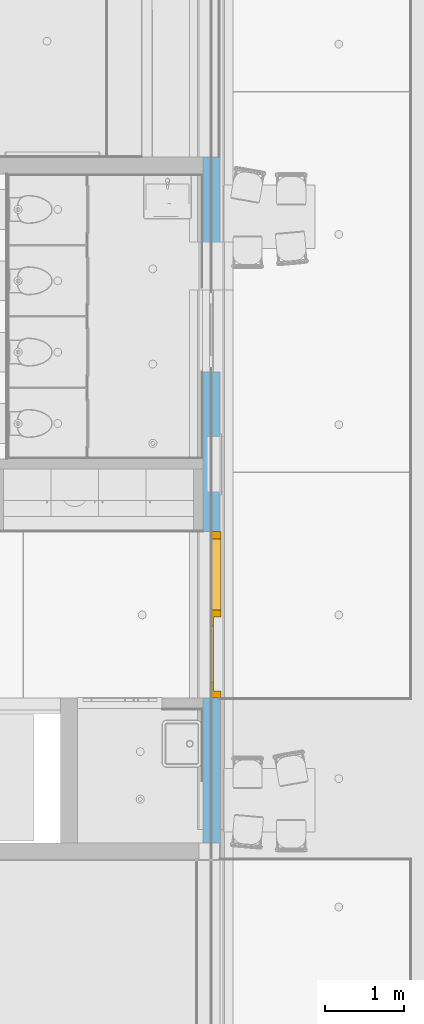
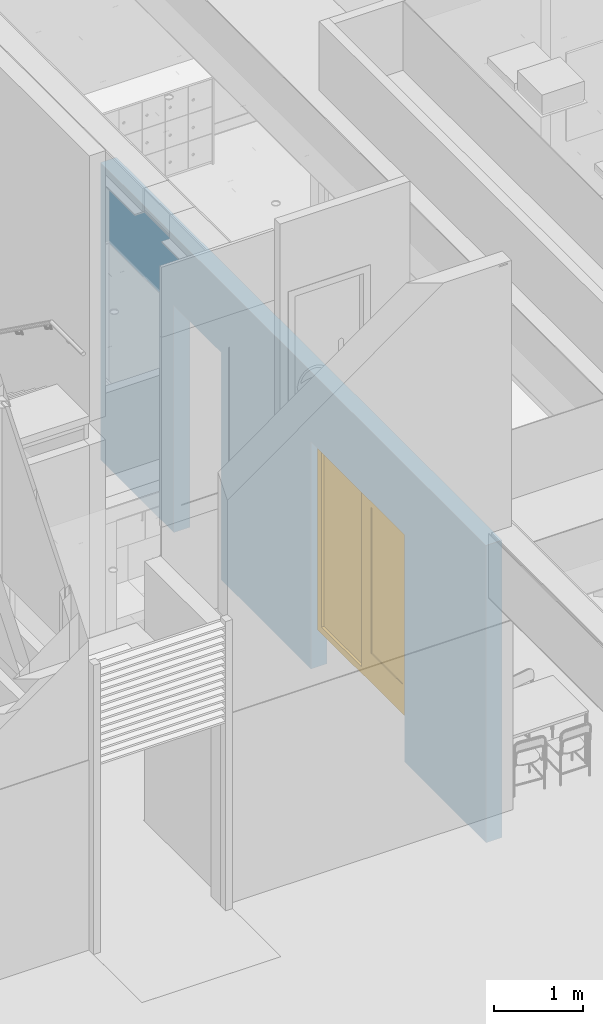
# One storey, part 77 of 347: 1 door, 2 openings, plus 1 element that does not belong to this part.
"""IFC2X3 building model written with IfcOpenShell, lengths in millimetres."""

from ifc_helpers import new_model, entity, si_unit, converted_unit, derived_unit, money_unit, direction, frame, origin_with_axes, place, context, subcontext, project, spatial, open_shell, faceted_brep, surface_model, material, type_object, element, fill, save


model = new_model("IFC2X3")

# Units and contexts
model_context = context("Model", 3, precision=0.01, world=origin_with_axes(), true_north=direction((0.0, 1.0)))
plan_context = context("Plan", 3, precision=0.01, world=origin_with_axes(), true_north=direction((0.0, 1.0)))
body_context = subcontext(model_context, "Body", "Model", "MODEL_VIEW")
ifc_project = project(units=[si_unit("LENGTHUNIT", "METRE", prefix="MILLI"), si_unit("AREAUNIT", "SQUARE_METRE"), si_unit("VOLUMEUNIT", "CUBIC_METRE"), converted_unit("PLANEANGLEUNIT", "DEGREE", entity("IfcPlaneAngleMeasure", 0.0174532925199), si_unit("PLANEANGLEUNIT", "RADIAN"), dimensions=[0, 0, 0, 0, 0, 0, 0]), money_unit("EUR"), converted_unit("TIMEUNIT", "Year", entity("IfcTimeMeasure", 31556926.0), si_unit("TIMEUNIT", "SECOND"), dimensions=[0, 0, 1, 0, 0, 0, 0]), si_unit("MASSUNIT", "GRAM", prefix="KILO"), si_unit("THERMODYNAMICTEMPERATUREUNIT", "DEGREE_CELSIUS"), si_unit("LUMINOUSINTENSITYUNIT", "LUMEN"), si_unit("ENERGYUNIT", "JOULE", prefix="MEGA"), derived_unit("THERMALCONDUCTANCEUNIT", [(si_unit("POWERUNIT", "WATT"), 1), (si_unit("LENGTHUNIT", "METRE"), -1), (si_unit("THERMODYNAMICTEMPERATUREUNIT", "KELVIN"), -1)]), derived_unit("SPECIFICHEATCAPACITYUNIT", [(si_unit("ENERGYUNIT", "JOULE"), 1), (si_unit("MASSUNIT", "GRAM", prefix="KILO"), -1), (si_unit("THERMODYNAMICTEMPERATUREUNIT", "KELVIN"), -1)]), derived_unit("MASSDENSITYUNIT", [(si_unit("MASSUNIT", "GRAM", prefix="KILO"), 1), (si_unit("VOLUMEUNIT", "CUBIC_METRE"), -1)])], contexts=[model_context, plan_context])

# Site, building, storey
site_placement = place(None, origin_with_axes())
site = spatial("IfcSite", under=ifc_project, at=site_placement, Name="Site", CompositionType="ELEMENT")
building_placement = place(site_placement, origin_with_axes())
building = spatial("IfcBuilding", under=site, at=building_placement, Name="Naam gebouw", CompositionType="ELEMENT")
storey_placement = place(building_placement, origin_with_axes())
storey = spatial("IfcBuildingStorey", under=building, at=storey_placement, Name="begane grond", CompositionType="ELEMENT", Elevation=0.0)

# Wall, openings, door
ifc_material = material(Name="Beton gewapend prefab wand")
wall_type = type_object("IfcWallType", Name="Betonwand 200 210", PredefinedType="NOTDEFINED")
wall_placement = place(storey_placement, frame((44445.0, 25940.0, -510.0), z_axis=(0.0, 0.0, 1.0), x_axis=(0.0, 1.0, 0.0)))
wall = element("IfcWall", 1, at=wall_placement, inside=storey, type_object=wall_type, material=ifc_material, Name="21_21 betonwand", context=body_context, shape_type="Brep", body=[
    faceted_brep([(2034.9998617, -210.0, 440.0), (2034.9998617, -210.0, 3110.0), (4134.99978935, -210.0, 3110.0), (4134.99978935, -210.0, 440.0), (4134.99992765, -210.0, 0.0), (6149.99992765, -210.0, 0.0), (6149.99992765, -210.0, 440.0), (6149.99992765, -210.0, 3110.0), (7213.99992765, -210.0, 3110.0), (7213.99992765, -210.0, 440.0), (7213.99992765, -210.0, 0.0), (8860.0, -210.0, 0.0), (8860.0, -210.0, 4070.0), (210.0, -210.0, 4070.0), (210.0, -210.0, 0.0), (2035.0, -210.0, 0.0), (2034.9998617, 0.0, 440.0), (2034.9998617, 0.0, 3110.0), (4134.99978935, 0.0, 3110.0), (4134.99978935, 0.0, 440.0), (4134.99992765, 0.0, 0.0), (6149.99992765, 0.0, 0.0), (6149.99992765, 0.0, 440.0), (6149.99992765, -130.0, 440.0), (6149.99992765, 0.0, 3110.0), (7213.99992765, 0.0, 3110.0), (7213.99992765, 0.0, 440.0), (7213.99992765, -130.0, 440.0), (7213.99992765, 0.0, 0.0), (8860.0, 0.0, 0.0), (8860.0, 0.0, 4070.0), (210.0, 0.0, 4070.0), (210.0, 0.0, 0.0), (2035.0, 0.0, 0.0)], [[[0, 1, 2, 3, 4, 5, 6, 7, 8, 9, 10, 11, 12, 13, 14, 15]], [[1, 0, 16, 17]], [[2, 1, 17, 18]], [[3, 2, 18, 19]], [[3, 19, 20, 4]], [[4, 20, 21, 5]], [[6, 5, 21, 22, 23]], [[24, 7, 6, 23, 22]], [[24, 25, 8, 7]], [[26, 27, 9, 8, 25]], [[28, 10, 9, 27, 26]], [[29, 11, 10, 28]], [[11, 29, 30, 12]], [[31, 13, 12, 30]], [[31, 32, 14, 13]], [[14, 32, 33, 15]], [[16, 0, 15, 33]], [[17, 16, 33, 32, 31, 30, 29, 28, 26, 25, 24, 22, 21, 20, 19, 18]]]),
])
opening_1_placement = place(wall_placement, frame((6681.99992765, 0.0, 510.0), z_axis=(0.0, 0.0, 1.0), x_axis=(1.0, 0.0, 0.0)))
element("IfcOpeningElement", 2, at=opening_1_placement, cuts=wall, Name="32_02.04", context=body_context, shape_type="Brep", body=[
    faceted_brep([(-532.0, 210.0, 2600.0), (-532.0, 210.0, -450.0), (-532.0, -130.0, -450.0), (-532.0, -130.0, 2600.0), (532.0, 210.0, 2600.0), (532.0, 210.0, -450.0), (532.0, -130.0, -450.0), (532.0, -130.0, 2600.0)], [[[0, 1, 2, 3]], [[0, 4, 5, 1]], [[1, 5, 6, 2]], [[3, 2, 6, 7]], [[4, 0, 3, 7]], [[5, 4, 7, 6]]]),
    faceted_brep([(-532.0, -420.0, -450.0), (-532.0, -420.0, 2600.0), (-532.0, -130.0, 2600.0), (-532.0, -130.0, -450.0), (532.0, -420.0, -450.0), (532.0, -420.0, 2600.0), (532.0, -130.0, 2600.0), (532.0, -130.0, -450.0)], [[[0, 1, 2, 3]], [[0, 4, 5, 1]], [[1, 5, 6, 2]], [[3, 2, 6, 7]], [[4, 0, 3, 7]], [[5, 4, 7, 6]]]),
])
opening_2_placement = place(wall_placement, frame((3084.99982553, 0.0, 510.0), z_axis=(0.0, 0.0, 1.0), x_axis=(1.0, 0.0, 0.0)))
opening_2 = element("IfcOpeningElement", 3, at=opening_2_placement, cuts=wall, Name="32_03.03", context=body_context, shape_type="Brep", body=[
    faceted_brep([(-1049.99996383, -432.0, -450.0), (-1049.99996383, -432.0, 2600.0), (-1049.99996383, 210.0, 2600.0), (-1049.99996383, 210.0, -450.0), (1049.99996383, -432.0, -450.0), (1049.99996383, -432.0, 2600.0), (1049.99996383, 210.0, 2600.0), (1049.99996383, 210.0, -450.0)], [[[0, 1, 2, 3]], [[0, 4, 5, 1]], [[1, 5, 6, 2]], [[3, 2, 6, 7]], [[4, 0, 3, 7]], [[5, 4, 7, 6]]]),
])
door_style = type_object("IfcDoorStyle", Name="D1 zl1-b 25", ConstructionType="NOTDEFINED", OperationType="SINGLE_SWING_LEFT", ParameterTakesPrecedence=False, Sizeable=False)
door_placement = place(opening_2_placement, frame((-1049.99996383, 0.0, 0.0), z_axis=(0.0, 0.0, 1.0), x_axis=(1.0, 0.0, 0.0)))
door = element("IfcDoor", 4, at=door_placement, inside=storey, type_object=door_style, Name="32_03.03", ObjectType="DOOR", OverallHeight=2600.0, OverallWidth=2100.0, context=body_context, shape_type="SurfaceModel", body=[
    faceted_brep([(2099.99992765, -83.0, 0.0), (2099.99992765, -222.0, 0.0), (2009.99992765, -222.0, 0.0), (2009.99992765, -83.0, 0.0), (2099.99992765, -83.0, 2510.0), (2099.99992765, -222.0, 2510.0), (2009.99992765, -222.0, 2510.0), (2009.99992765, -222.0, 90.0), (2009.99992765, -83.0, 90.0), (2009.99992765, -83.0, 2510.0)], [[[0, 1, 2, 3]], [[4, 5, 1, 0]], [[1, 5, 6, 7, 2]], [[3, 2, 7, 8]], [[0, 3, 8, 9, 4]], [[9, 6, 5, 4]], [[8, 7, 6, 9]]]),
    faceted_brep([(1024.0, -128.0, 0.0), (1024.0, -222.0, 0.0), (1024.0, -222.0, 2510.0), (1024.0, -128.0, 2510.0), (1049.0, -128.0, 0.0), (1049.0, -83.0, 0.0), (1114.0, -83.0, 0.0), (1114.0, -222.0, 0.0), (1114.0, -222.0, 90.0), (1114.0, -222.0, 2510.0), (1049.0, -128.0, 2510.0), (1114.0, -83.0, 2510.0), (1049.0, -83.0, 2510.0), (1114.0, -83.0, 90.0)], [[[0, 1, 2, 3]], [[4, 5, 6, 7, 1, 0]], [[7, 8, 9, 2, 1]], [[10, 3, 2, 9, 11, 12]], [[10, 4, 0, 3]], [[12, 5, 4, 10]], [[12, 11, 13, 6, 5]], [[6, 13, 8, 7]], [[13, 11, 9, 8]]]),
    faceted_brep([(2009.99992765, -83.0, 90.0), (2009.99992765, -222.0, 90.0), (2009.99992765, -222.0, 0.0), (2009.99992765, -83.0, 0.0), (1114.0, -83.0, 90.0), (1114.0, -222.0, 90.0), (1114.0, -222.0, 0.0), (1114.0, -83.0, 0.0)], [[[0, 1, 2, 3]], [[4, 5, 1, 0]], [[1, 5, 6, 2]], [[3, 2, 6, 7]], [[0, 3, 7, 4]], [[7, 6, 5, 4]]]),
    faceted_brep([(65.0, -128.0, 2510.0), (65.0, -83.0, 2510.0), (0.0, -83.0, 2510.0), (0.0, -222.0, 2510.0), (90.0, -222.0, 2510.0), (90.0, -128.0, 2510.0), (65.0, -128.0, 0.0), (65.0, -83.0, 0.0), (0.0, -83.0, 0.0), (0.0, -222.0, 0.0), (90.0, -222.0, 0.0), (90.0, -128.0, 0.0)], [[[0, 1, 2, 3, 4, 5]], [[0, 6, 7, 1]], [[7, 8, 2, 1]], [[2, 8, 9, 3]], [[3, 9, 10, 4]], [[5, 4, 10, 11]], [[5, 11, 6, 0]], [[6, 11, 10, 9, 8, 7]]]),
    faceted_brep([(1049.0, -83.0, 2535.0), (65.0, -83.0, 2535.0), (65.0, -83.0, 2510.0), (0.0, -83.0, 2510.0), (0.0, -83.0, 2600.0), (2099.99992765, -83.0, 2600.0), (2099.99992765, -83.0, 2510.0), (2009.99992765, -83.0, 2510.0), (1114.0, -83.0, 2510.0), (1049.0, -83.0, 2510.0), (1049.0, -128.0, 2535.0), (65.0, -128.0, 2535.0), (65.0, -128.0, 2510.0), (90.0, -128.0, 2510.0), (90.0, -222.0, 2510.0), (0.0, -222.0, 2510.0), (0.0, -222.0, 2600.0), (2099.99992765, -222.0, 2600.0), (2099.99992765, -222.0, 2510.0), (2009.99992765, -222.0, 2510.0), (1114.0, -222.0, 2510.0), (1049.0, -128.0, 2510.0), (1024.0, -222.0, 2510.0)], [[[0, 1, 2, 3, 4, 5, 6, 7, 8, 9]], [[0, 10, 11, 1]], [[1, 11, 12, 2]], [[12, 13, 14, 15, 3, 2]], [[4, 3, 15, 16]], [[5, 4, 16, 17]], [[6, 5, 17, 18]], [[7, 6, 18, 19]], [[8, 7, 19, 20]], [[21, 9, 8, 20, 22, 14, 13]], [[9, 21, 10, 0]], [[12, 11, 10, 21, 13]], [[14, 22, 20, 19, 18, 17, 16, 15]]]),
    faceted_brep([(65.0, -88.0, 400.0), (205.0, -88.0, 400.0), (205.0, -128.0, 400.0), (65.0, -128.0, 400.0), (65.0, -88.0, 2395.0), (205.0, -88.0, 2395.0), (205.0, -128.0, 2395.0), (65.0, -128.0, 2395.0)], [[[0, 1, 2, 3]], [[0, 4, 5, 1]], [[1, 5, 6, 2]], [[3, 2, 6, 7]], [[4, 0, 3, 7]], [[5, 4, 7, 6]]]),
    faceted_brep([(1049.0, -88.0, 400.0), (1049.0, -88.0, 2395.0), (1049.0, -128.0, 2395.0), (1049.0, -128.0, 400.0), (909.0, -88.0, 400.0), (909.0, -88.0, 2395.0), (909.0, -128.0, 2395.0), (909.0, -128.0, 400.0)], [[[0, 1, 2, 3]], [[0, 4, 5, 1]], [[1, 5, 6, 2]], [[3, 2, 6, 7]], [[4, 0, 3, 7]], [[5, 4, 7, 6]]]),
    faceted_brep([(65.0, -88.0, 0.0), (1049.0, -88.0, 0.0), (1049.0, -128.0, 0.0), (65.0, -128.0, 0.0), (65.0, -88.0, 400.0), (205.0, -88.0, 400.0), (909.0, -88.0, 400.0), (1049.0, -88.0, 400.0), (1049.0, -128.0, 400.0), (909.0, -128.0, 400.0), (205.0, -128.0, 400.0), (65.0, -128.0, 400.0)], [[[0, 1, 2, 3]], [[0, 4, 5, 6, 7, 1]], [[1, 7, 8, 2]], [[3, 2, 8, 9, 10, 11]], [[4, 0, 3, 11]], [[5, 4, 11, 10]], [[6, 5, 10, 9]], [[7, 6, 9, 8]]]),
    faceted_brep([(65.0, -88.0, 2535.0), (65.0, -88.0, 2395.0), (65.0, -128.0, 2395.0), (65.0, -128.0, 2535.0), (1049.0, -88.0, 2535.0), (1049.0, -88.0, 2395.0), (909.0, -88.0, 2395.0), (205.0, -88.0, 2395.0), (205.0, -128.0, 2395.0), (909.0, -128.0, 2395.0), (1049.0, -128.0, 2395.0), (1049.0, -128.0, 2535.0)], [[[0, 1, 2, 3]], [[0, 4, 5, 6, 7, 1]], [[1, 7, 8, 2]], [[3, 2, 8, 9, 10, 11]], [[4, 0, 3, 11]], [[5, 4, 11, 10]], [[6, 5, 10, 9]], [[7, 6, 9, 8]]]),
    surface_model("IfcShellBasedSurfaceModel", [(205.0, -102.0, 400.0), (205.0, -102.0, 2395.0), (909.0, -102.0, 2395.0), (909.0, -102.0, 400.0)], [open_shell([[[0, 1, 2, 3]]])]),
    surface_model("IfcShellBasedSurfaceModel", [(205.0, -114.0, 400.0), (909.0, -114.0, 400.0), (909.0, -114.0, 2395.0), (205.0, -114.0, 2395.0)], [open_shell([[[0, 1, 2, 3]]])]),
    surface_model("IfcShellBasedSurfaceModel", [(2009.99992765, -129.0, 90.0), (2009.99992765, -129.0, 2510.0), (1114.0, -129.0, 2510.0), (1114.0, -129.0, 90.0)], [open_shell([[[0, 1, 2, 3]]])]),
    surface_model("IfcShellBasedSurfaceModel", [(2009.99992765, -117.0, 90.0), (1114.0, -117.0, 90.0), (1114.0, -117.0, 2510.0), (2009.99992765, -117.0, 2510.0)], [open_shell([[[0, 1, 2, 3]]])]),
])
fill(opening_2, door)

save(model, "model.ifc")
